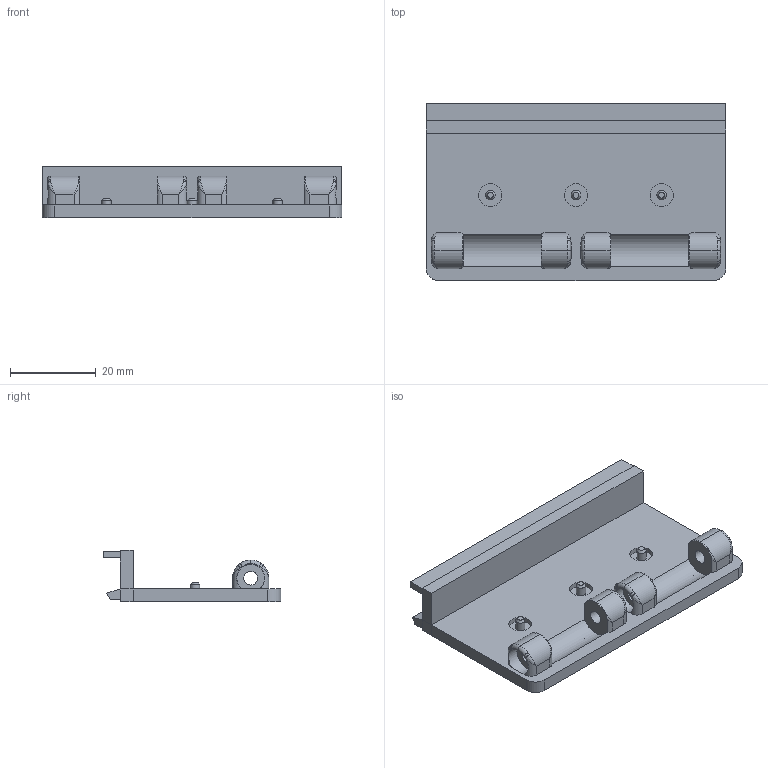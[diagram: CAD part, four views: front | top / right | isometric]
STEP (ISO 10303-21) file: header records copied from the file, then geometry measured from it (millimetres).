
FILE_DESCRIPTION(('FreeCAD Model'),'2;1');
FILE_NAME('Open CASCADE Shape Model','2026-10-18T19:16:06',('FreeCAD'),( 'FreeCAD'),'Open CASCADE STEP processor 7.9','FreeCAD','Unknown');
FILE_SCHEMA(('AUTOMOTIVE_DESIGN { 1 0 10303 214 1 1 1 1 }'));
Length unit declared in the file: millimetre
Products named in the file (1): Open CASCADE STEP translator 7.9 3
Bounding box: 70 x 41.43 x 12.05 mm (x, y, z)
Volume: 10898.9 mm3; surface area: 9388.4 mm2
Topology: 1 solids, 1 shells, 168 faces, 450 edges, 280 vertices
Faces by surface type: plane 71, cylinder 46, bspline 32, torus 16, cone 3
Full cylindrical faces by diameter (mm): 2.2 x3, 3.2 x4, 5.4 x3, 6.2 x2, 6.5 x2, 8 x4
Entity records: 11430 total; most frequent: CARTESIAN_POINT 7598, ORIENTED_EDGE 868, DIRECTION 743, EDGE_CURVE 434, AXIS2_PLACEMENT_3D 284, VERTEX_POINT 280, FACE_BOUND 188, EDGE_LOOP 188
